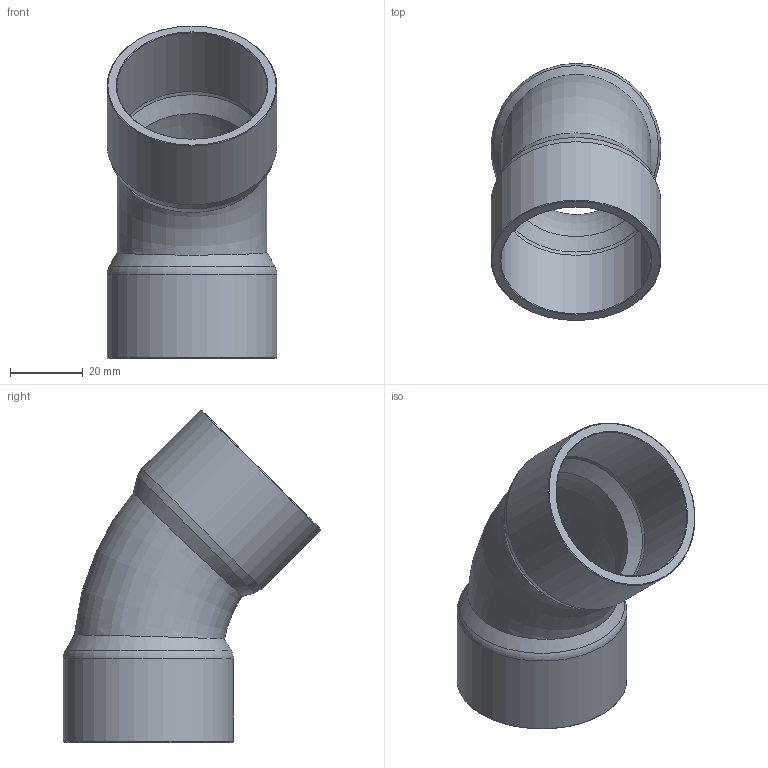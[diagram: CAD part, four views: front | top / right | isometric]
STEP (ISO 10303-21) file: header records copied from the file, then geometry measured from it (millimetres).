
FILE_DESCRIPTION((''),'2;1');
FILE_NAME('G:\SANHA-Ternat\Technik\Management\Bouwmaten + markeringen\z-maattekeningen 3D\29000s\29041158_3d.stp','2017-07-26T13:17:25',('vdvijverd'),(''),'Autodesk Inventor 2009','Autodesk Inventor 2009','');
FILE_SCHEMA(('AUTOMOTIVE_DESIGN { 1 0 10303 214 1 1 1 1 }'));
Length unit declared in the file: millimetre
Products named in the file (1): 29041158_3d
Bounding box: 46.85 x 70.97 x 91.54 mm (x, y, z)
Volume: 31059.9 mm3; surface area: 23696.7 mm2
Topology: 1 solids, 1 shells, 20 faces, 38 edges, 20 vertices
Faces by surface type: bspline 8, cone 6, torus 3, cylinder 2, plane 1
Full cylindrical faces by diameter (mm): 41.455 x1, 46.855 x1
Entity records: 812 total; most frequent: CARTESIAN_POINT 482, DIRECTION 58, ORIENTED_EDGE 40, EDGE_LOOP 40, AXIS2_PLACEMENT_3D 29, VERTEX_POINT 20, EDGE_CURVE 20, FACE_OUTER_BOUND 20
